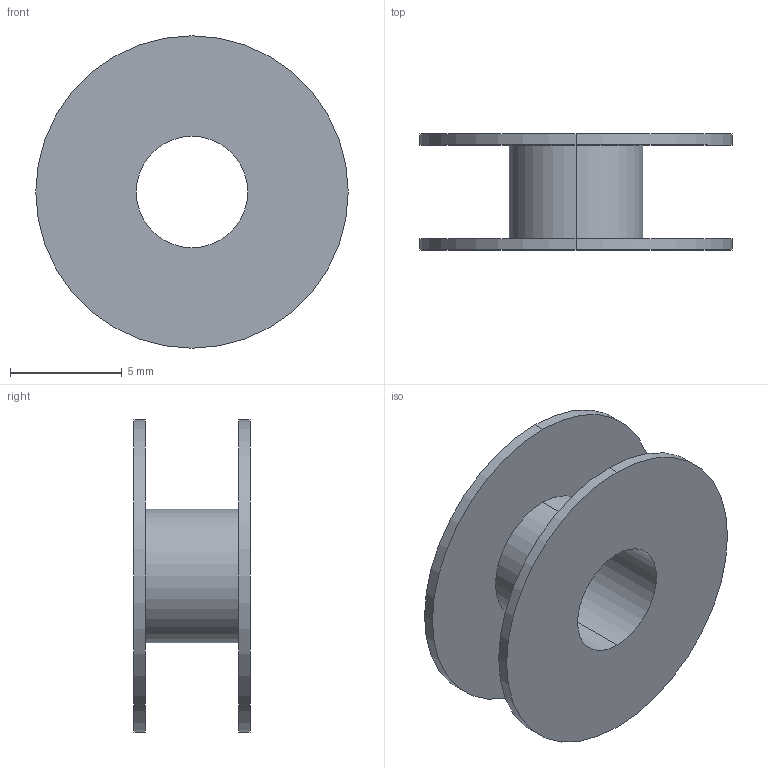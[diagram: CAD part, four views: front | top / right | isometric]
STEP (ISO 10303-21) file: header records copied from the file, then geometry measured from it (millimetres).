
FILE_DESCRIPTION (( 'STEP AP203' ), '1' );
FILE_NAME ('Plastic bushing.step', '2026-06-05T03:32:58', ( '' ), ( '' ), 'SwSTEP 2.0', 'SolidWorks 2024', '' );
FILE_SCHEMA (( 'CONFIG_CONTROL_DESIGN' ));
Length unit declared in the file: millimetre
Products named in the file (1): Plastic bushing
Bounding box: 14 x 5.2 x 14 mm (x, y, z)
Volume: 170.6 mm3; surface area: 724.8 mm2
Topology: 1 solids, 1 shells, 12 faces, 24 edges, 16 vertices
Faces by surface type: cylinder 8, plane 4
Entity records: 405 total; most frequent: DIRECTION 66, CARTESIAN_POINT 53, ORIENTED_EDGE 48, AXIS2_PLACEMENT_3D 29, EDGE_CURVE 24, VERTEX_POINT 16, CIRCLE 16, EDGE_LOOP 16
